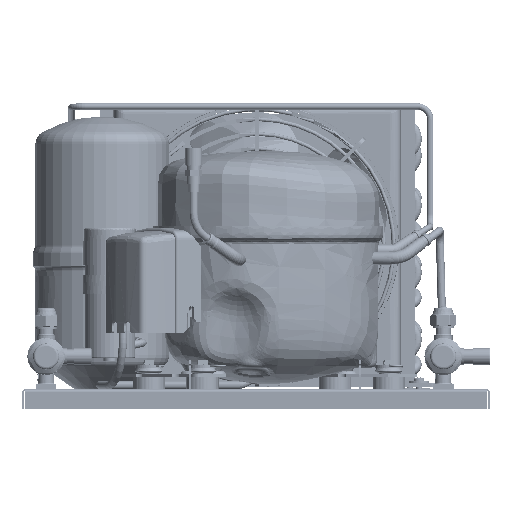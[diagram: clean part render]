
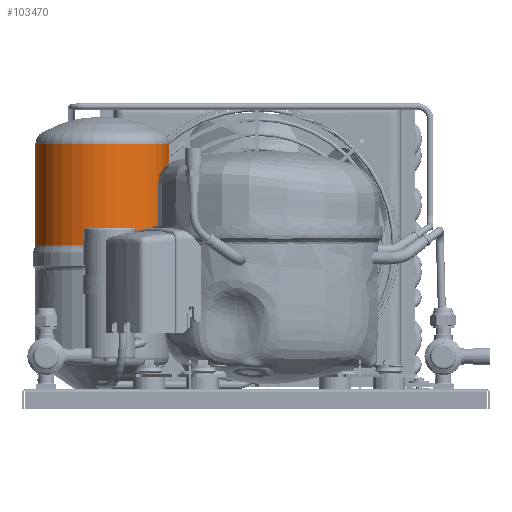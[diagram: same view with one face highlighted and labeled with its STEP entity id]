
A CAD part, front view. The second image highlights one B-rep face of the part: STEP entity #103470.
In plain terms, the highlighted cylindrical face has radius 50 mm (diameter 100 mm), a full revolution.
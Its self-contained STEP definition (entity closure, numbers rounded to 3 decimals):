
#1982=B_SPLINE_CURVE_WITH_KNOTS('',3,(#209723,#209724,#209725,#209726,#209727,
#209728,#209729,#209730,#209731,#209732,#209733,#209734,#209735,#209736,
#209737,#209738,#209739,#209740,#209741,#209742,#209743,#209744,#209745,
#209746,#209747,#209748,#209749,#209750,#209751),.UNSPECIFIED.,.T.,.F.,
(1,1,1,1,1,1,1,1,1,1,1,1,1,1,1,1,1,1,1,1,1,1,1,1,1,1,1,1,1,1,1,1,1),(-0.128,
-0.066,-0.033,0.,0.059,0.091,0.122,
0.184,0.215,0.247,0.309,0.34,
0.372,0.434,0.497,0.5,
0.53,0.559,0.591,0.622,
0.684,0.715,0.747,0.778,
0.809,0.84,0.872,0.934,
0.967,1.,1.059,1.091,1.122),.UNSPECIFIED.);
#8404=CYLINDRICAL_SURFACE('',#139573,50.);
#9730=CIRCLE('',#139574,50.);
#9731=CIRCLE('',#139575,50.);
#18149=ORIENTED_EDGE('',*,*,#45267,.T.);
#18150=ORIENTED_EDGE('',*,*,#45268,.T.);
#18151=ORIENTED_EDGE('',*,*,#45269,.T.);
#45267=EDGE_CURVE('',#59403,#59403,#9730,.F.);
#45268=EDGE_CURVE('',#59404,#59404,#1982,.T.);
#45269=EDGE_CURVE('',#59405,#59405,#9731,.T.);
#59403=VERTEX_POINT('',#209722);
#59404=VERTEX_POINT('',#209752);
#59405=VERTEX_POINT('',#209754);
#82760=EDGE_LOOP('',(#18149));
#82761=EDGE_LOOP('',(#18150));
#82762=EDGE_LOOP('',(#18151));
#91234=FACE_BOUND('',#82760,.T.);
#91235=FACE_BOUND('',#82761,.T.);
#91236=FACE_BOUND('',#82762,.T.);
#103470=ADVANCED_FACE('',(#91234,#91235,#91236),#8404,.T.);
#139573=AXIS2_PLACEMENT_3D('',#209720,#151703,#151704);
#139574=AXIS2_PLACEMENT_3D('',#209721,#151705,#151706);
#139575=AXIS2_PLACEMENT_3D('',#209753,#151707,#151708);
#151703=DIRECTION('',(0.,0.,-1.));
#151704=DIRECTION('',(-1.,0.,0.));
#151705=DIRECTION('',(0.,0.,-1.));
#151706=DIRECTION('',(-1.,0.,0.));
#151707=DIRECTION('',(0.,0.,-1.));
#151708=DIRECTION('',(-1.,0.,0.));
#209720=CARTESIAN_POINT('',(0.,0.,-11.));
#209721=CARTESIAN_POINT('',(0.,0.,107.849));
#209722=CARTESIAN_POINT('',(-50.,0.,107.849));
#209723=CARTESIAN_POINT('',(-49.98,1.706,178.875));
#209724=CARTESIAN_POINT('',(-50.018,-0.456,179.116));
#209725=CARTESIAN_POINT('',(-49.95,-2.604,178.671));
#209726=CARTESIAN_POINT('',(-49.8,-4.535,177.616));
#209727=CARTESIAN_POINT('',(-49.621,-6.235,176.171));
#209728=CARTESIAN_POINT('',(-49.438,-7.497,174.214));
#209729=CARTESIAN_POINT('',(-49.325,-8.192,171.93));
#209730=CARTESIAN_POINT('',(-49.28,-8.45,169.606));
#209731=CARTESIAN_POINT('',(-49.349,-8.059,167.251));
#209732=CARTESIAN_POINT('',(-49.502,-7.059,165.111));
#209733=CARTESIAN_POINT('',(-49.681,-5.722,163.275));
#209734=CARTESIAN_POINT('',(-49.912,-3.443,161.549));
#209735=CARTESIAN_POINT('',(-49.998,-1.227,161.013));
#209736=CARTESIAN_POINT('',(-50.001,0.471,160.994));
#209737=CARTESIAN_POINT('',(-49.984,1.543,161.103));
#209738=CARTESIAN_POINT('',(-49.913,3.082,161.587));
#209739=CARTESIAN_POINT('',(-49.8,4.538,162.384));
#209740=CARTESIAN_POINT('',(-49.621,6.236,163.83));
#209741=CARTESIAN_POINT('',(-49.438,7.495,165.787));
#209742=CARTESIAN_POINT('',(-49.325,8.193,168.074));
#209743=CARTESIAN_POINT('',(-49.292,8.384,169.817));
#209744=CARTESIAN_POINT('',(-49.313,8.259,171.577));
#209745=CARTESIAN_POINT('',(-49.389,7.803,173.293));
#209746=CARTESIAN_POINT('',(-49.503,7.054,174.896));
#209747=CARTESIAN_POINT('',(-49.682,5.713,176.735));
#209748=CARTESIAN_POINT('',(-49.869,3.878,178.115));
#209749=CARTESIAN_POINT('',(-49.98,1.706,178.875));
#209750=CARTESIAN_POINT('',(-50.018,-0.456,179.116));
#209751=CARTESIAN_POINT('',(-49.95,-2.604,178.671));
#209752=CARTESIAN_POINT('',(-50.,0.,179.));
#209753=CARTESIAN_POINT('',(0.,0.,183.409));
#209754=CARTESIAN_POINT('',(-50.,0.,183.409));
